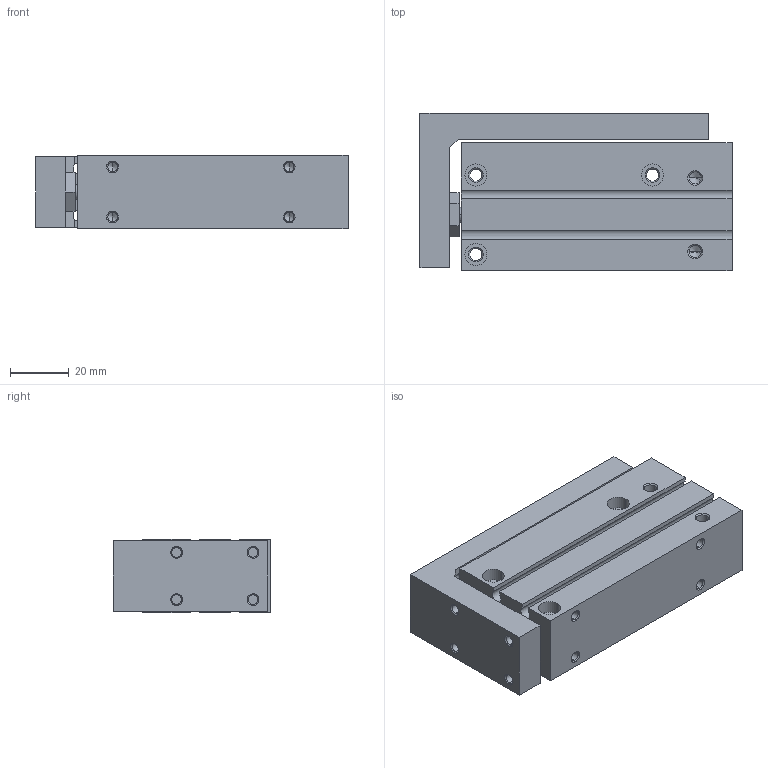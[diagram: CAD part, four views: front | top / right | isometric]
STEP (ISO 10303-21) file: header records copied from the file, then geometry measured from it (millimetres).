
FILE_DESCRIPTION (( 'STEP AP203' ), '1' );
FILE_NAME ('CXH16-50.STEP', '2020-04-16T18:12:34', ( '' ), ( '' ), 'SwSTEP 2.0', 'SolidWorks 2019', '' );
FILE_SCHEMA (( 'CONFIG_CONTROL_DESIGN' ));
Length unit declared in the file: millimetre
Products named in the file (1): CXH16-50
Bounding box: 106 x 53.5 x 25 mm (x, y, z)
Volume: 113373.7 mm3; surface area: 36718.7 mm2
Topology: 2 solids, 2 shells, 216 faces, 515 edges, 298 vertices
Faces by surface type: cone 92, cylinder 80, plane 44
Entity records: 6176 total; most frequent: DIRECTION 1141, CARTESIAN_POINT 1044, ORIENTED_EDGE 974, EDGE_CURVE 487, AXIS2_PLACEMENT_3D 441, VERTEX_POINT 298, EDGE_LOOP 265, LINE 259
